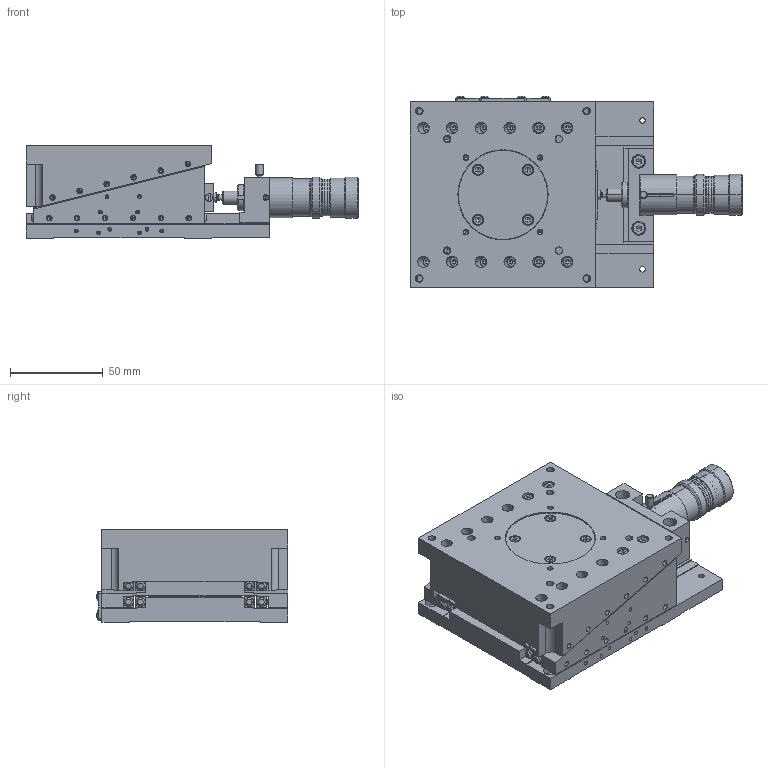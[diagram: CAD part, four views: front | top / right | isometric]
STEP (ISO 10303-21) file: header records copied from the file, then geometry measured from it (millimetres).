
FILE_DESCRIPTION (( 'STEP AP203' ), '1' );
FILE_NAME ('ZM10A-C3C-R.STEP', '2015-05-21T09:24:32', ( '' ), ( '' ), 'SwSTEP 2.0', 'SolidWorks 2011', '' );
FILE_SCHEMA (( 'CONFIG_CONTROL_DESIGN' ));
Products named in the file (4): ZM10A-C3C-R; wedge-4; table-29; base-38
Assembly tree (3 placements, depth 2):
  ZM10A-C3C-R
    table-29
    base-38
    wedge-4
Bounding box: 178.5 x 103.18 x 50 mm (x, y, z)
Volume: 463124.2 mm3; surface area: 131212.5 mm2
Topology: 3 solids, 83 shells, 2873 faces, 6372 edges, 3700 vertices
Faces by surface type: plane 1343, cylinder 885, cone 629, sphere 12, torus 4
Entity records: 78114 total; most frequent: DIRECTION 14311, CARTESIAN_POINT 13734, ORIENTED_EDGE 12304, EDGE_CURVE 6152, AXIS2_PLACEMENT_3D 5411, VERTEX_POINT 3700, VECTOR 3489, LINE 3489
